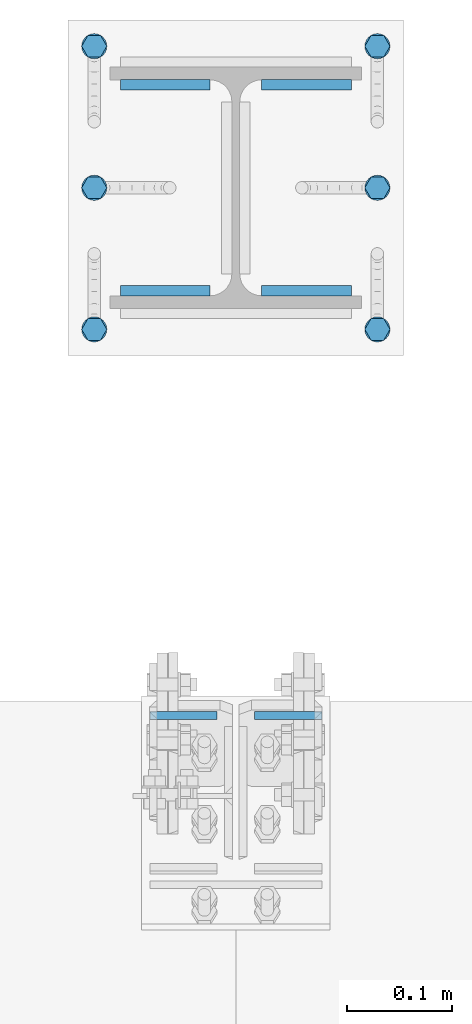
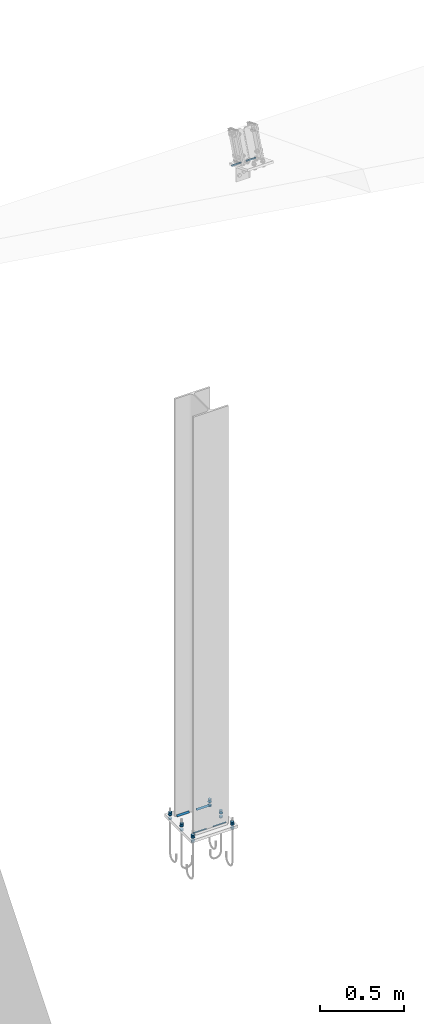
# One storey, part 46 of 72: 30 mechanical fasteners, 12 fasteners.
"""IFC4 building model written with IfcOpenShell, lengths in metres."""

from ifc_helpers import new_model, si_unit, frame, origin_with_axes, place, context, project, spatial, polyline, outline, extrude, type_object, element, save


model = new_model("IFC4")

# Units and contexts
model_context = context("Model", 3, precision=1e-05, world=origin_with_axes())
ifc_project = project(units=[si_unit("LENGTHUNIT", "METRE"), si_unit("AREAUNIT", "SQUARE_METRE"), si_unit("VOLUMEUNIT", "CUBIC_METRE"), si_unit("MASSUNIT", "GRAM", prefix="KILO"), si_unit("TIMEUNIT", "SECOND"), si_unit("PLANEANGLEUNIT", "RADIAN"), si_unit("SOLIDANGLEUNIT", "STERADIAN"), si_unit("THERMODYNAMICTEMPERATUREUNIT", "DEGREE_CELSIUS")], contexts=[model_context])

# Site, building, storey
placement_1 = place(None, origin_with_axes())
site = spatial("IfcSite", under=ifc_project, at=placement_1, Name="Italia", CompositionType="ELEMENT")
building = spatial("IfcBuilding", under=site, at=placement_1, Name="Uffici", CompositionType="ELEMENT")
storey = spatial("IfcBuildingStorey", under=building, at=placement_1, Name="Storey 0", CompositionType="ELEMENT", Elevation=0.0)

# Fasteners
fastener_type_1 = type_object("IfcFastenerType", Name="Collegamenti 0001_0101 0002_0102 0003_0103 0004_0104 0005_0105 0011_0111 0012_0112 0013_0113 0014_0114 0015_0115", PredefinedType="WELD")
placement_2 = place(placement_1, origin_with_axes())
fastener_1_placement = place(placement_2, origin_with_axes())
element("IfcFastener", 1, at=fastener_1_placement, inside=storey, type_object=fastener_type_1, Name="Collegamenti 0001_0101 0002_0102 0003_0103 0004_0104 0005_0105 0011_0111 0012_0112 0013_0113 0014_0114 0015_0115", context=model_context, shape_type="SweptSolid", body=[
    extrude(outline(polyline([(0.0, 0.0), (0.00986814, 0.0101734), (0.00986814, 0.0), (0.0, 0.0)])), frame((3.2297, 5.48318, 0.01995), z_axis=(1.0, 0.0, 0.0), x_axis=(0.0, 1.0, 0.0)), (0.0, 0.0, 1.0), 0.08535),
])
fastener_type_2 = type_object("IfcFastenerType", Name="Collegamenti 0001_0101 0002_0102 0003_0103 0004_0104 0005_0105 0011_0111 0012_0112 0013_0113 0014_0114 0015_0115", PredefinedType="WELD")
fastener_2_placement = place(placement_2, origin_with_axes())
element("IfcFastener", 2, at=fastener_2_placement, inside=storey, type_object=fastener_type_2, Name="Collegamenti 0001_0101 0002_0102 0003_0103 0004_0104 0005_0105 0011_0111 0012_0112 0013_0113 0014_0114 0015_0115", context=model_context, shape_type="SweptSolid", body=[
    extrude(outline(polyline([(0.0, 0.0), (0.00986814, 0.0101734), (0.00986814, 0.0), (0.0, 0.0)])), frame((3.31505, 5.29682, 0.01995), z_axis=(-1.0, 0.0, 0.0), x_axis=(0.0, -1.0, 0.0)), (0.0, 0.0, 1.0), 0.08535),
])
fastener_type_3 = type_object("IfcFastenerType", Name="Collegamenti 0001_0101 0002_0102 0003_0103 0004_0104 0005_0105 0011_0111 0012_0112 0013_0113 0014_0114 0015_0115", PredefinedType="WELD")
fastener_3_placement = place(placement_2, origin_with_axes())
element("IfcFastener", 3, at=fastener_3_placement, inside=storey, type_object=fastener_type_3, Name="Collegamenti 0001_0101 0002_0102 0003_0103 0004_0104 0005_0105 0011_0111 0012_0112 0013_0113 0014_0114 0015_0115", context=model_context, shape_type="SweptSolid", body=[
    extrude(outline(polyline([(0.0, 0.0), (0.00986814, 0.0101734), (0.00986814, 0.0), (0.0, 0.0)])), frame((3.1803, 5.29682, 0.01995), z_axis=(-1.0, 0.0, 0.0), x_axis=(0.0, -1.0, 0.0)), (0.0, 0.0, 1.0), 0.08535),
])
fastener_type_4 = type_object("IfcFastenerType", Name="Collegamenti 0001_0101 0002_0102 0003_0103 0004_0104 0005_0105 0011_0111 0012_0112 0013_0113 0014_0114 0015_0115", PredefinedType="WELD")
fastener_4_placement = place(placement_2, origin_with_axes())
element("IfcFastener", 4, at=fastener_4_placement, inside=storey, type_object=fastener_type_4, Name="Collegamenti 0001_0101 0002_0102 0003_0103 0004_0104 0005_0105 0011_0111 0012_0112 0013_0113 0014_0114 0015_0115", context=model_context, shape_type="SweptSolid", body=[
    extrude(outline(polyline([(0.0, 0.0), (0.00986814, 0.0101734), (0.00986814, 0.0), (0.0, 0.0)])), frame((3.09495, 5.48318, 0.01995), z_axis=(1.0, 0.0, 0.0), x_axis=(0.0, 1.0, 0.0)), (0.0, 0.0, 1.0), 0.08535),
])
fastener_type_5 = type_object("IfcFastenerType", Name="Collegamenti 0001_0101 0002_0102 0003_0103 0004_0104 0005_0105 0011_0111 0012_0112 0013_0113 0014_0114 0015_0115", PredefinedType="WELD")
fastener_5_placement = place(placement_2, origin_with_axes())
element("IfcFastener", 5, at=fastener_5_placement, inside=storey, type_object=fastener_type_5, Name="Collegamenti 0001_0101 0002_0102 0003_0103 0004_0104 0005_0105 0011_0111 0012_0112 0013_0113 0014_0114 0015_0115", context=model_context, shape_type="SweptSolid", body=[
    extrude(outline(polyline([(0.0, 0.0), (0.00986814, 0.0101734), (0.00986814, 0.0), (0.0, 0.0)])), frame((3.2297, 5.48318, 0.01995), z_axis=(1.0, 0.0, 0.0), x_axis=(0.0, 1.0, 0.0)), (0.0, 0.0, 1.0), 0.08535),
])
fastener_type_6 = type_object("IfcFastenerType", Name="Collegamenti 0001_0101 0002_0102 0003_0103 0004_0104 0005_0105 0011_0111 0012_0112 0013_0113 0014_0114 0015_0115", PredefinedType="WELD")
fastener_6_placement = place(placement_2, origin_with_axes())
element("IfcFastener", 6, at=fastener_6_placement, inside=storey, type_object=fastener_type_6, Name="Collegamenti 0001_0101 0002_0102 0003_0103 0004_0104 0005_0105 0011_0111 0012_0112 0013_0113 0014_0114 0015_0115", context=model_context, shape_type="SweptSolid", body=[
    extrude(outline(polyline([(0.0, 0.0), (0.00986814, 0.0101734), (0.00986814, 0.0), (0.0, 0.0)])), frame((3.31505, 5.29682, 0.01995), z_axis=(-1.0, 0.0, 0.0), x_axis=(0.0, -1.0, 0.0)), (0.0, 0.0, 1.0), 0.08535),
])
fastener_type_7 = type_object("IfcFastenerType", Name="Collegamenti 0001_0101 0002_0102 0003_0103 0004_0104 0005_0105 0011_0111 0012_0112 0013_0113 0014_0114 0015_0115", PredefinedType="WELD")
fastener_7_placement = place(placement_2, origin_with_axes())
element("IfcFastener", 7, at=fastener_7_placement, inside=storey, type_object=fastener_type_7, Name="Collegamenti 0001_0101 0002_0102 0003_0103 0004_0104 0005_0105 0011_0111 0012_0112 0013_0113 0014_0114 0015_0115", context=model_context, shape_type="SweptSolid", body=[
    extrude(outline(polyline([(0.0, 0.0), (0.00986814, 0.0101734), (0.00986814, 0.0), (0.0, 0.0)])), frame((3.1803, 5.29682, 0.01995), z_axis=(-1.0, 0.0, 0.0), x_axis=(0.0, -1.0, 0.0)), (0.0, 0.0, 1.0), 0.08535),
])
fastener_type_8 = type_object("IfcFastenerType", Name="Collegamenti 0001_0101 0002_0102 0003_0103 0004_0104 0005_0105 0011_0111 0012_0112 0013_0113 0014_0114 0015_0115", PredefinedType="WELD")
fastener_8_placement = place(placement_2, origin_with_axes())
element("IfcFastener", 8, at=fastener_8_placement, inside=storey, type_object=fastener_type_8, Name="Collegamenti 0001_0101 0002_0102 0003_0103 0004_0104 0005_0105 0011_0111 0012_0112 0013_0113 0014_0114 0015_0115", context=model_context, shape_type="SweptSolid", body=[
    extrude(outline(polyline([(0.0, 0.0), (0.00986814, 0.0101734), (0.00986814, 0.0), (0.0, 0.0)])), frame((3.09495, 5.48318, 0.01995), z_axis=(1.0, 0.0, 0.0), x_axis=(0.0, 1.0, 0.0)), (0.0, 0.0, 1.0), 0.08535),
])

# Mechanical fasteners
mechanical_fastener_type_1 = type_object("IfcMechanicalFastenerType", Name="Collegamenti 0001_0101 0002_0102 0003_0103 0004_0104 0005_0105 0011_0111 0012_0112 0013_0113 0014_0114 0015_0115", PredefinedType="BOLT")
mechanical_fastener_1_placement = place(placement_2, origin_with_axes())
element("IfcMechanicalFastener", 9, at=mechanical_fastener_1_placement, inside=storey, type_object=mechanical_fastener_type_1, Name="Collegamenti 0001_0101 0002_0102 0003_0103 0004_0104 0005_0105 0011_0111 0012_0112 0013_0113 0014_0114 0015_0115", NominalDiameter=0.0119999, context=model_context, shape_type="SweptSolid", body=[
    extrude(outline(polyline([(0.0, 0.0), (0.0, 0.0120001), (0.0103922, 0.0180001), (0.0207849, 0.0120001), (0.0207849, 0.0), (0.0103922, -0.00600004), (0.0, 0.0)])), frame((3.076, 5.24461, 0.022), z_axis=(0.0, 0.0, 1.0), x_axis=(0.0, 1.0, 0.0)), (0.0, 0.0, 1.0), 0.0096),
])
mechanical_fastener_type_2 = type_object("IfcMechanicalFastenerType", Name="Collegamenti 0001_0101 0002_0102 0003_0103 0004_0104 0005_0105 0011_0111 0012_0112 0013_0113 0014_0114 0015_0115", PredefinedType="BOLT")
mechanical_fastener_2_placement = place(placement_2, origin_with_axes())
element("IfcMechanicalFastener", 10, at=mechanical_fastener_2_placement, inside=storey, type_object=mechanical_fastener_type_2, Name="Collegamenti 0001_0101 0002_0102 0003_0103 0004_0104 0005_0105 0011_0111 0012_0112 0013_0113 0014_0114 0015_0115", NominalDiameter=0.0119999, context=model_context, shape_type="SweptSolid", body=[
    extrude(outline(polyline([(0.0, 0.0), (0.0, 0.0120001), (0.0103922, 0.0180001), (0.0207849, 0.0120001), (0.0207849, 0.0), (0.0103922, -0.00600004), (0.0, 0.0)])), frame((3.076, 5.24461, 0.0316), z_axis=(0.0, 0.0, 1.0), x_axis=(0.0, 1.0, 0.0)), (0.0, 0.0, 1.0), 0.0096),
])
mechanical_fastener_type_3 = type_object("IfcMechanicalFastenerType", Name="Collegamenti 0001_0101 0002_0102 0003_0103 0004_0104 0005_0105 0011_0111 0012_0112 0013_0113 0014_0114 0015_0115", PredefinedType="BOLT")
mechanical_fastener_3_placement = place(placement_2, origin_with_axes())
element("IfcMechanicalFastener", 11, at=mechanical_fastener_3_placement, inside=storey, type_object=mechanical_fastener_type_3, Name="Collegamenti 0001_0101 0002_0102 0003_0103 0004_0104 0005_0105 0011_0111 0012_0112 0013_0113 0014_0114 0015_0115", NominalDiameter=0.0119999, context=model_context, shape_type="SweptSolid", body=[
    extrude(outline(polyline([(0.0, 0.0), (0.0, 0.0120001), (0.0103922, 0.0180001), (0.0207849, 0.0120001), (0.0207849, 0.0), (0.0103922, -0.00600004), (0.0, 0.0)])), frame((3.076, 5.24461, -0.0116), z_axis=(0.0, 0.0, 1.0), x_axis=(0.0, 1.0, 0.0)), (0.0, 0.0, 1.0), 0.0096),
])
mechanical_fastener_type_4 = type_object("IfcMechanicalFastenerType", Name="Collegamenti 0001_0101 0002_0102 0003_0103 0004_0104 0005_0105 0011_0111 0012_0112 0013_0113 0014_0114 0015_0115", PredefinedType="BOLT")
mechanical_fastener_4_placement = place(placement_2, origin_with_axes())
element("IfcMechanicalFastener", 12, at=mechanical_fastener_4_placement, inside=storey, type_object=mechanical_fastener_type_4, Name="Collegamenti 0001_0101 0002_0102 0003_0103 0004_0104 0005_0105 0011_0111 0012_0112 0013_0113 0014_0114 0015_0115", NominalDiameter=0.024, context=model_context, shape_type="SweptSolid", body=[
    extrude(outline(polyline([(0.0, 0.0), (-0.000409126, -0.00310588), (-0.00160789, -0.00600004), (-0.00351477, -0.00848532), (-0.00600004, -0.0103922), (-0.00889444, -0.0115912), (-0.0120001, -0.0120001), (-0.0151057, -0.0115912), (-0.0180001, -0.0103922), (-0.0204854, -0.00848532), (-0.0223923, -0.00600004), (-0.023591, -0.00310588), (-0.0240002, 0.0), (-0.023591, 0.00310588), (-0.0223923, 0.00600004), (-0.0204854, 0.00848532), (-0.0180001, 0.0103922), (-0.0151057, 0.0115912), (-0.0120001, 0.0120001), (-0.00889444, 0.0115912), (-0.00600004, 0.0103922), (-0.00351477, 0.00848532), (-0.00160789, 0.00600004), (-0.000409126, 0.00310588), (0.0, 0.0)])), frame((3.07, 5.267, 0.02), z_axis=(0.0, 0.0, 1.0), x_axis=(0.0, 1.0, 0.0)), (0.0, 0.0, 1.0), 0.002),
])
mechanical_fastener_type_5 = type_object("IfcMechanicalFastenerType", Name="Collegamenti 0001_0101 0002_0102 0003_0103 0004_0104 0005_0105 0011_0111 0012_0112 0013_0113 0014_0114 0015_0115", PredefinedType="BOLT")
mechanical_fastener_5_placement = place(placement_2, origin_with_axes())
element("IfcMechanicalFastener", 13, at=mechanical_fastener_5_placement, inside=storey, type_object=mechanical_fastener_type_5, Name="Collegamenti 0001_0101 0002_0102 0003_0103 0004_0104 0005_0105 0011_0111 0012_0112 0013_0113 0014_0114 0015_0115", NominalDiameter=0.024, context=model_context, shape_type="SweptSolid", body=[
    extrude(outline(polyline([(0.0, 0.0), (-0.000409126, -0.00310588), (-0.00160789, -0.00600004), (-0.00351477, -0.00848532), (-0.00600004, -0.0103922), (-0.00889444, -0.0115912), (-0.0120001, -0.0120001), (-0.0151057, -0.0115912), (-0.0180001, -0.0103922), (-0.0204854, -0.00848532), (-0.0223923, -0.00600004), (-0.023591, -0.00310588), (-0.0240002, 0.0), (-0.023591, 0.00310588), (-0.0223923, 0.00600004), (-0.0204854, 0.00848532), (-0.0180001, 0.0103922), (-0.0151057, 0.0115912), (-0.0120001, 0.0120001), (-0.00889444, 0.0115912), (-0.00600004, 0.0103922), (-0.00351477, 0.00848532), (-0.00160789, 0.00600004), (-0.000409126, 0.00310588), (0.0, 0.0)])), frame((3.07, 5.267, -0.002), z_axis=(0.0, 0.0, 1.0), x_axis=(0.0, 1.0, 0.0)), (0.0, 0.0, 1.0), 0.002),
])
mechanical_fastener_type_6 = type_object("IfcMechanicalFastenerType", Name="Collegamenti 0001_0101 0002_0102 0003_0103 0004_0104 0005_0105 0011_0111 0012_0112 0013_0113 0014_0114 0015_0115", PredefinedType="BOLT")
mechanical_fastener_6_placement = place(placement_2, origin_with_axes())
element("IfcMechanicalFastener", 14, at=mechanical_fastener_6_placement, inside=storey, type_object=mechanical_fastener_type_6, Name="Collegamenti 0001_0101 0002_0102 0003_0103 0004_0104 0005_0105 0011_0111 0012_0112 0013_0113 0014_0114 0015_0115", NominalDiameter=0.0119999, context=model_context, shape_type="SweptSolid", body=[
    extrude(outline(polyline([(0.0, 0.0), (0.0, 0.0120001), (0.0103922, 0.0180001), (0.0207849, 0.0120001), (0.0207849, 0.0), (0.0103922, -0.00600004), (0.0, 0.0)])), frame((3.346, 5.24461, 0.022), z_axis=(0.0, 0.0, 1.0), x_axis=(0.0, 1.0, 0.0)), (0.0, 0.0, 1.0), 0.0096),
])
mechanical_fastener_type_7 = type_object("IfcMechanicalFastenerType", Name="Collegamenti 0001_0101 0002_0102 0003_0103 0004_0104 0005_0105 0011_0111 0012_0112 0013_0113 0014_0114 0015_0115", PredefinedType="BOLT")
mechanical_fastener_7_placement = place(placement_2, origin_with_axes())
element("IfcMechanicalFastener", 15, at=mechanical_fastener_7_placement, inside=storey, type_object=mechanical_fastener_type_7, Name="Collegamenti 0001_0101 0002_0102 0003_0103 0004_0104 0005_0105 0011_0111 0012_0112 0013_0113 0014_0114 0015_0115", NominalDiameter=0.0119999, context=model_context, shape_type="SweptSolid", body=[
    extrude(outline(polyline([(0.0, 0.0), (0.0, 0.0120001), (0.0103922, 0.0180001), (0.0207849, 0.0120001), (0.0207849, 0.0), (0.0103922, -0.00600004), (0.0, 0.0)])), frame((3.346, 5.24461, 0.0316), z_axis=(0.0, 0.0, 1.0), x_axis=(0.0, 1.0, 0.0)), (0.0, 0.0, 1.0), 0.0096),
])
mechanical_fastener_type_8 = type_object("IfcMechanicalFastenerType", Name="Collegamenti 0001_0101 0002_0102 0003_0103 0004_0104 0005_0105 0011_0111 0012_0112 0013_0113 0014_0114 0015_0115", PredefinedType="BOLT")
mechanical_fastener_8_placement = place(placement_2, origin_with_axes())
element("IfcMechanicalFastener", 16, at=mechanical_fastener_8_placement, inside=storey, type_object=mechanical_fastener_type_8, Name="Collegamenti 0001_0101 0002_0102 0003_0103 0004_0104 0005_0105 0011_0111 0012_0112 0013_0113 0014_0114 0015_0115", NominalDiameter=0.0119999, context=model_context, shape_type="SweptSolid", body=[
    extrude(outline(polyline([(0.0, 0.0), (0.0, 0.0120001), (0.0103922, 0.0180001), (0.0207849, 0.0120001), (0.0207849, 0.0), (0.0103922, -0.00600004), (0.0, 0.0)])), frame((3.346, 5.24461, -0.0116), z_axis=(0.0, 0.0, 1.0), x_axis=(0.0, 1.0, 0.0)), (0.0, 0.0, 1.0), 0.0096),
])
mechanical_fastener_type_9 = type_object("IfcMechanicalFastenerType", Name="Collegamenti 0001_0101 0002_0102 0003_0103 0004_0104 0005_0105 0011_0111 0012_0112 0013_0113 0014_0114 0015_0115", PredefinedType="BOLT")
mechanical_fastener_9_placement = place(placement_2, origin_with_axes())
element("IfcMechanicalFastener", 17, at=mechanical_fastener_9_placement, inside=storey, type_object=mechanical_fastener_type_9, Name="Collegamenti 0001_0101 0002_0102 0003_0103 0004_0104 0005_0105 0011_0111 0012_0112 0013_0113 0014_0114 0015_0115", NominalDiameter=0.024, context=model_context, shape_type="SweptSolid", body=[
    extrude(outline(polyline([(0.0, 0.0), (-0.000409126, -0.00310588), (-0.00160789, -0.00600004), (-0.00351477, -0.00848532), (-0.00600004, -0.0103922), (-0.00889444, -0.0115912), (-0.0120001, -0.0120001), (-0.0151057, -0.0115912), (-0.0180001, -0.0103922), (-0.0204854, -0.00848532), (-0.0223923, -0.00600004), (-0.023591, -0.00310588), (-0.0240002, 0.0), (-0.023591, 0.00310588), (-0.0223923, 0.00600004), (-0.0204854, 0.00848532), (-0.0180001, 0.0103922), (-0.0151057, 0.0115912), (-0.0120001, 0.0120001), (-0.00889444, 0.0115912), (-0.00600004, 0.0103922), (-0.00351477, 0.00848532), (-0.00160789, 0.00600004), (-0.000409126, 0.00310588), (0.0, 0.0)])), frame((3.34, 5.267, 0.02), z_axis=(0.0, 0.0, 1.0), x_axis=(0.0, 1.0, 0.0)), (0.0, 0.0, 1.0), 0.002),
])
mechanical_fastener_type_10 = type_object("IfcMechanicalFastenerType", Name="Collegamenti 0001_0101 0002_0102 0003_0103 0004_0104 0005_0105 0011_0111 0012_0112 0013_0113 0014_0114 0015_0115", PredefinedType="BOLT")
mechanical_fastener_10_placement = place(placement_2, origin_with_axes())
element("IfcMechanicalFastener", 18, at=mechanical_fastener_10_placement, inside=storey, type_object=mechanical_fastener_type_10, Name="Collegamenti 0001_0101 0002_0102 0003_0103 0004_0104 0005_0105 0011_0111 0012_0112 0013_0113 0014_0114 0015_0115", NominalDiameter=0.024, context=model_context, shape_type="SweptSolid", body=[
    extrude(outline(polyline([(0.0, 0.0), (-0.000409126, -0.00310588), (-0.00160789, -0.00600004), (-0.00351477, -0.00848532), (-0.00600004, -0.0103922), (-0.00889444, -0.0115912), (-0.0120001, -0.0120001), (-0.0151057, -0.0115912), (-0.0180001, -0.0103922), (-0.0204854, -0.00848532), (-0.0223923, -0.00600004), (-0.023591, -0.00310588), (-0.0240002, 0.0), (-0.023591, 0.00310588), (-0.0223923, 0.00600004), (-0.0204854, 0.00848532), (-0.0180001, 0.0103922), (-0.0151057, 0.0115912), (-0.0120001, 0.0120001), (-0.00889444, 0.0115912), (-0.00600004, 0.0103922), (-0.00351477, 0.00848532), (-0.00160789, 0.00600004), (-0.000409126, 0.00310588), (0.0, 0.0)])), frame((3.34, 5.267, -0.002), z_axis=(0.0, 0.0, 1.0), x_axis=(0.0, 1.0, 0.0)), (0.0, 0.0, 1.0), 0.002),
])
mechanical_fastener_type_11 = type_object("IfcMechanicalFastenerType", Name="Collegamenti 0001_0101 0002_0102 0003_0103 0004_0104 0005_0105 0011_0111 0012_0112 0013_0113 0014_0114 0015_0115", PredefinedType="BOLT")
mechanical_fastener_11_placement = place(placement_2, origin_with_axes())
element("IfcMechanicalFastener", 19, at=mechanical_fastener_11_placement, inside=storey, type_object=mechanical_fastener_type_11, Name="Collegamenti 0001_0101 0002_0102 0003_0103 0004_0104 0005_0105 0011_0111 0012_0112 0013_0113 0014_0114 0015_0115", NominalDiameter=0.0119999, context=model_context, shape_type="SweptSolid", body=[
    extrude(outline(polyline([(0.0, 0.0), (0.0, 0.0120001), (0.0103922, 0.0180001), (0.0207844, 0.0120001), (0.0207844, 0.0), (0.0103922, -0.00600004), (0.0, 0.0)])), frame((3.076, 5.37961, 0.022), z_axis=(0.0, 0.0, 1.0), x_axis=(0.0, 1.0, 0.0)), (0.0, 0.0, 1.0), 0.0096),
])
mechanical_fastener_type_12 = type_object("IfcMechanicalFastenerType", Name="Collegamenti 0001_0101 0002_0102 0003_0103 0004_0104 0005_0105 0011_0111 0012_0112 0013_0113 0014_0114 0015_0115", PredefinedType="BOLT")
mechanical_fastener_12_placement = place(placement_2, origin_with_axes())
element("IfcMechanicalFastener", 20, at=mechanical_fastener_12_placement, inside=storey, type_object=mechanical_fastener_type_12, Name="Collegamenti 0001_0101 0002_0102 0003_0103 0004_0104 0005_0105 0011_0111 0012_0112 0013_0113 0014_0114 0015_0115", NominalDiameter=0.0119999, context=model_context, shape_type="SweptSolid", body=[
    extrude(outline(polyline([(0.0, 0.0), (0.0, 0.0120001), (0.0103922, 0.0180001), (0.0207844, 0.0120001), (0.0207844, 0.0), (0.0103922, -0.00600004), (0.0, 0.0)])), frame((3.076, 5.37961, 0.0316), z_axis=(0.0, 0.0, 1.0), x_axis=(0.0, 1.0, 0.0)), (0.0, 0.0, 1.0), 0.0096),
])
mechanical_fastener_type_13 = type_object("IfcMechanicalFastenerType", Name="Collegamenti 0001_0101 0002_0102 0003_0103 0004_0104 0005_0105 0011_0111 0012_0112 0013_0113 0014_0114 0015_0115", PredefinedType="BOLT")
mechanical_fastener_13_placement = place(placement_2, origin_with_axes())
element("IfcMechanicalFastener", 21, at=mechanical_fastener_13_placement, inside=storey, type_object=mechanical_fastener_type_13, Name="Collegamenti 0001_0101 0002_0102 0003_0103 0004_0104 0005_0105 0011_0111 0012_0112 0013_0113 0014_0114 0015_0115", NominalDiameter=0.0119999, context=model_context, shape_type="SweptSolid", body=[
    extrude(outline(polyline([(0.0, 0.0), (0.0, 0.0120001), (0.0103922, 0.0180001), (0.0207844, 0.0120001), (0.0207844, 0.0), (0.0103922, -0.00600004), (0.0, 0.0)])), frame((3.076, 5.37961, -0.0116), z_axis=(0.0, 0.0, 1.0), x_axis=(0.0, 1.0, 0.0)), (0.0, 0.0, 1.0), 0.0096),
])
mechanical_fastener_type_14 = type_object("IfcMechanicalFastenerType", Name="Collegamenti 0001_0101 0002_0102 0003_0103 0004_0104 0005_0105 0011_0111 0012_0112 0013_0113 0014_0114 0015_0115", PredefinedType="BOLT")
mechanical_fastener_14_placement = place(placement_2, origin_with_axes())
element("IfcMechanicalFastener", 22, at=mechanical_fastener_14_placement, inside=storey, type_object=mechanical_fastener_type_14, Name="Collegamenti 0001_0101 0002_0102 0003_0103 0004_0104 0005_0105 0011_0111 0012_0112 0013_0113 0014_0114 0015_0115", NominalDiameter=0.024, context=model_context, shape_type="SweptSolid", body=[
    extrude(outline(polyline([(0.0, 0.0), (-0.000409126, -0.00310588), (-0.00160789, -0.00600004), (-0.00351477, -0.00848532), (-0.00600004, -0.0103922), (-0.00889444, -0.0115912), (-0.0120001, -0.0120001), (-0.0151057, -0.0115912), (-0.0180001, -0.0103922), (-0.0204854, -0.00848532), (-0.0223923, -0.00600004), (-0.023591, -0.00310588), (-0.0240002, 0.0), (-0.023591, 0.00310588), (-0.0223923, 0.00600004), (-0.0204854, 0.00848532), (-0.0180001, 0.0103922), (-0.0151057, 0.0115912), (-0.0120001, 0.0120001), (-0.00889444, 0.0115912), (-0.00600004, 0.0103922), (-0.00351477, 0.00848532), (-0.00160789, 0.00600004), (-0.000409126, 0.00310588), (0.0, 0.0)])), frame((3.07, 5.402, 0.02), z_axis=(0.0, 0.0, 1.0), x_axis=(0.0, 1.0, 0.0)), (0.0, 0.0, 1.0), 0.002),
])
mechanical_fastener_type_15 = type_object("IfcMechanicalFastenerType", Name="Collegamenti 0001_0101 0002_0102 0003_0103 0004_0104 0005_0105 0011_0111 0012_0112 0013_0113 0014_0114 0015_0115", PredefinedType="BOLT")
mechanical_fastener_15_placement = place(placement_2, origin_with_axes())
element("IfcMechanicalFastener", 23, at=mechanical_fastener_15_placement, inside=storey, type_object=mechanical_fastener_type_15, Name="Collegamenti 0001_0101 0002_0102 0003_0103 0004_0104 0005_0105 0011_0111 0012_0112 0013_0113 0014_0114 0015_0115", NominalDiameter=0.024, context=model_context, shape_type="SweptSolid", body=[
    extrude(outline(polyline([(0.0, 0.0), (-0.000409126, -0.00310588), (-0.00160789, -0.00600004), (-0.00351477, -0.00848532), (-0.00600004, -0.0103922), (-0.00889444, -0.0115912), (-0.0120001, -0.0120001), (-0.0151057, -0.0115912), (-0.0180001, -0.0103922), (-0.0204854, -0.00848532), (-0.0223923, -0.00600004), (-0.023591, -0.00310588), (-0.0240002, 0.0), (-0.023591, 0.00310588), (-0.0223923, 0.00600004), (-0.0204854, 0.00848532), (-0.0180001, 0.0103922), (-0.0151057, 0.0115912), (-0.0120001, 0.0120001), (-0.00889444, 0.0115912), (-0.00600004, 0.0103922), (-0.00351477, 0.00848532), (-0.00160789, 0.00600004), (-0.000409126, 0.00310588), (0.0, 0.0)])), frame((3.07, 5.402, -0.002), z_axis=(0.0, 0.0, 1.0), x_axis=(0.0, 1.0, 0.0)), (0.0, 0.0, 1.0), 0.002),
])
mechanical_fastener_type_16 = type_object("IfcMechanicalFastenerType", Name="Collegamenti 0001_0101 0002_0102 0003_0103 0004_0104 0005_0105 0011_0111 0012_0112 0013_0113 0014_0114 0015_0115", PredefinedType="BOLT")
mechanical_fastener_16_placement = place(placement_2, origin_with_axes())
element("IfcMechanicalFastener", 24, at=mechanical_fastener_16_placement, inside=storey, type_object=mechanical_fastener_type_16, Name="Collegamenti 0001_0101 0002_0102 0003_0103 0004_0104 0005_0105 0011_0111 0012_0112 0013_0113 0014_0114 0015_0115", NominalDiameter=0.0119999, context=model_context, shape_type="SweptSolid", body=[
    extrude(outline(polyline([(0.0, 0.0), (0.0, 0.0120001), (0.0103922, 0.0180001), (0.0207844, 0.0120001), (0.0207844, 0.0), (0.0103922, -0.00600004), (0.0, 0.0)])), frame((3.346, 5.37961, 0.022), z_axis=(0.0, 0.0, 1.0), x_axis=(0.0, 1.0, 0.0)), (0.0, 0.0, 1.0), 0.0096),
])
mechanical_fastener_type_17 = type_object("IfcMechanicalFastenerType", Name="Collegamenti 0001_0101 0002_0102 0003_0103 0004_0104 0005_0105 0011_0111 0012_0112 0013_0113 0014_0114 0015_0115", PredefinedType="BOLT")
mechanical_fastener_17_placement = place(placement_2, origin_with_axes())
element("IfcMechanicalFastener", 25, at=mechanical_fastener_17_placement, inside=storey, type_object=mechanical_fastener_type_17, Name="Collegamenti 0001_0101 0002_0102 0003_0103 0004_0104 0005_0105 0011_0111 0012_0112 0013_0113 0014_0114 0015_0115", NominalDiameter=0.0119999, context=model_context, shape_type="SweptSolid", body=[
    extrude(outline(polyline([(0.0, 0.0), (0.0, 0.0120001), (0.0103922, 0.0180001), (0.0207844, 0.0120001), (0.0207844, 0.0), (0.0103922, -0.00600004), (0.0, 0.0)])), frame((3.346, 5.37961, 0.0316), z_axis=(0.0, 0.0, 1.0), x_axis=(0.0, 1.0, 0.0)), (0.0, 0.0, 1.0), 0.0096),
])
mechanical_fastener_type_18 = type_object("IfcMechanicalFastenerType", Name="Collegamenti 0001_0101 0002_0102 0003_0103 0004_0104 0005_0105 0011_0111 0012_0112 0013_0113 0014_0114 0015_0115", PredefinedType="BOLT")
mechanical_fastener_18_placement = place(placement_2, origin_with_axes())
element("IfcMechanicalFastener", 26, at=mechanical_fastener_18_placement, inside=storey, type_object=mechanical_fastener_type_18, Name="Collegamenti 0001_0101 0002_0102 0003_0103 0004_0104 0005_0105 0011_0111 0012_0112 0013_0113 0014_0114 0015_0115", NominalDiameter=0.0119999, context=model_context, shape_type="SweptSolid", body=[
    extrude(outline(polyline([(0.0, 0.0), (0.0, 0.0120001), (0.0103922, 0.0180001), (0.0207844, 0.0120001), (0.0207844, 0.0), (0.0103922, -0.00600004), (0.0, 0.0)])), frame((3.346, 5.37961, -0.0116), z_axis=(0.0, 0.0, 1.0), x_axis=(0.0, 1.0, 0.0)), (0.0, 0.0, 1.0), 0.0096),
])
mechanical_fastener_type_19 = type_object("IfcMechanicalFastenerType", Name="Collegamenti 0001_0101 0002_0102 0003_0103 0004_0104 0005_0105 0011_0111 0012_0112 0013_0113 0014_0114 0015_0115", PredefinedType="BOLT")
mechanical_fastener_19_placement = place(placement_2, origin_with_axes())
element("IfcMechanicalFastener", 27, at=mechanical_fastener_19_placement, inside=storey, type_object=mechanical_fastener_type_19, Name="Collegamenti 0001_0101 0002_0102 0003_0103 0004_0104 0005_0105 0011_0111 0012_0112 0013_0113 0014_0114 0015_0115", NominalDiameter=0.024, context=model_context, shape_type="SweptSolid", body=[
    extrude(outline(polyline([(0.0, 0.0), (-0.000409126, -0.00310588), (-0.00160789, -0.00600004), (-0.00351477, -0.00848532), (-0.00600004, -0.0103922), (-0.00889444, -0.0115912), (-0.0120001, -0.0120001), (-0.0151057, -0.0115912), (-0.0180001, -0.0103922), (-0.0204854, -0.00848532), (-0.0223923, -0.00600004), (-0.023591, -0.00310588), (-0.0240002, 0.0), (-0.023591, 0.00310588), (-0.0223923, 0.00600004), (-0.0204854, 0.00848532), (-0.0180001, 0.0103922), (-0.0151057, 0.0115912), (-0.0120001, 0.0120001), (-0.00889444, 0.0115912), (-0.00600004, 0.0103922), (-0.00351477, 0.00848532), (-0.00160789, 0.00600004), (-0.000409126, 0.00310588), (0.0, 0.0)])), frame((3.34, 5.402, 0.02), z_axis=(0.0, 0.0, 1.0), x_axis=(0.0, 1.0, 0.0)), (0.0, 0.0, 1.0), 0.002),
])
mechanical_fastener_type_20 = type_object("IfcMechanicalFastenerType", Name="Collegamenti 0001_0101 0002_0102 0003_0103 0004_0104 0005_0105 0011_0111 0012_0112 0013_0113 0014_0114 0015_0115", PredefinedType="BOLT")
mechanical_fastener_20_placement = place(placement_2, origin_with_axes())
element("IfcMechanicalFastener", 28, at=mechanical_fastener_20_placement, inside=storey, type_object=mechanical_fastener_type_20, Name="Collegamenti 0001_0101 0002_0102 0003_0103 0004_0104 0005_0105 0011_0111 0012_0112 0013_0113 0014_0114 0015_0115", NominalDiameter=0.024, context=model_context, shape_type="SweptSolid", body=[
    extrude(outline(polyline([(0.0, 0.0), (-0.000409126, -0.00310588), (-0.00160789, -0.00600004), (-0.00351477, -0.00848532), (-0.00600004, -0.0103922), (-0.00889444, -0.0115912), (-0.0120001, -0.0120001), (-0.0151057, -0.0115912), (-0.0180001, -0.0103922), (-0.0204854, -0.00848532), (-0.0223923, -0.00600004), (-0.023591, -0.00310588), (-0.0240002, 0.0), (-0.023591, 0.00310588), (-0.0223923, 0.00600004), (-0.0204854, 0.00848532), (-0.0180001, 0.0103922), (-0.0151057, 0.0115912), (-0.0120001, 0.0120001), (-0.00889444, 0.0115912), (-0.00600004, 0.0103922), (-0.00351477, 0.00848532), (-0.00160789, 0.00600004), (-0.000409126, 0.00310588), (0.0, 0.0)])), frame((3.34, 5.402, -0.002), z_axis=(0.0, 0.0, 1.0), x_axis=(0.0, 1.0, 0.0)), (0.0, 0.0, 1.0), 0.002),
])
mechanical_fastener_type_21 = type_object("IfcMechanicalFastenerType", Name="Collegamenti 0001_0101 0002_0102 0003_0103 0004_0104 0005_0105 0011_0111 0012_0112 0013_0113 0014_0114 0015_0115", PredefinedType="BOLT")
mechanical_fastener_21_placement = place(placement_2, origin_with_axes())
element("IfcMechanicalFastener", 29, at=mechanical_fastener_21_placement, inside=storey, type_object=mechanical_fastener_type_21, Name="Collegamenti 0001_0101 0002_0102 0003_0103 0004_0104 0005_0105 0011_0111 0012_0112 0013_0113 0014_0114 0015_0115", NominalDiameter=0.0119999, context=model_context, shape_type="SweptSolid", body=[
    extrude(outline(polyline([(0.0, 0.0), (0.0, 0.0120001), (0.0103927, 0.0180001), (0.0207849, 0.0120001), (0.0207849, 0.0), (0.0103927, -0.00600004), (0.0, 0.0)])), frame((3.076, 5.51461, 0.022), z_axis=(0.0, 0.0, 1.0), x_axis=(0.0, 1.0, 0.0)), (0.0, 0.0, 1.0), 0.0096),
])
mechanical_fastener_type_22 = type_object("IfcMechanicalFastenerType", Name="Collegamenti 0001_0101 0002_0102 0003_0103 0004_0104 0005_0105 0011_0111 0012_0112 0013_0113 0014_0114 0015_0115", PredefinedType="BOLT")
mechanical_fastener_22_placement = place(placement_2, origin_with_axes())
element("IfcMechanicalFastener", 30, at=mechanical_fastener_22_placement, inside=storey, type_object=mechanical_fastener_type_22, Name="Collegamenti 0001_0101 0002_0102 0003_0103 0004_0104 0005_0105 0011_0111 0012_0112 0013_0113 0014_0114 0015_0115", NominalDiameter=0.0119999, context=model_context, shape_type="SweptSolid", body=[
    extrude(outline(polyline([(0.0, 0.0), (0.0, 0.0120001), (0.0103927, 0.0180001), (0.0207849, 0.0120001), (0.0207849, 0.0), (0.0103927, -0.00600004), (0.0, 0.0)])), frame((3.076, 5.51461, 0.0316), z_axis=(0.0, 0.0, 1.0), x_axis=(0.0, 1.0, 0.0)), (0.0, 0.0, 1.0), 0.0096),
])
mechanical_fastener_type_23 = type_object("IfcMechanicalFastenerType", Name="Collegamenti 0001_0101 0002_0102 0003_0103 0004_0104 0005_0105 0011_0111 0012_0112 0013_0113 0014_0114 0015_0115", PredefinedType="BOLT")
mechanical_fastener_23_placement = place(placement_2, origin_with_axes())
element("IfcMechanicalFastener", 31, at=mechanical_fastener_23_placement, inside=storey, type_object=mechanical_fastener_type_23, Name="Collegamenti 0001_0101 0002_0102 0003_0103 0004_0104 0005_0105 0011_0111 0012_0112 0013_0113 0014_0114 0015_0115", NominalDiameter=0.0119999, context=model_context, shape_type="SweptSolid", body=[
    extrude(outline(polyline([(0.0, 0.0), (0.0, 0.0120001), (0.0103927, 0.0180001), (0.0207849, 0.0120001), (0.0207849, 0.0), (0.0103927, -0.00600004), (0.0, 0.0)])), frame((3.076, 5.51461, -0.0116), z_axis=(0.0, 0.0, 1.0), x_axis=(0.0, 1.0, 0.0)), (0.0, 0.0, 1.0), 0.0096),
])
mechanical_fastener_type_24 = type_object("IfcMechanicalFastenerType", Name="Collegamenti 0001_0101 0002_0102 0003_0103 0004_0104 0005_0105 0011_0111 0012_0112 0013_0113 0014_0114 0015_0115", PredefinedType="BOLT")
mechanical_fastener_24_placement = place(placement_2, origin_with_axes())
element("IfcMechanicalFastener", 32, at=mechanical_fastener_24_placement, inside=storey, type_object=mechanical_fastener_type_24, Name="Collegamenti 0001_0101 0002_0102 0003_0103 0004_0104 0005_0105 0011_0111 0012_0112 0013_0113 0014_0114 0015_0115", NominalDiameter=0.024, context=model_context, shape_type="SweptSolid", body=[
    extrude(outline(polyline([(0.0, 0.0), (-0.000409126, -0.00310588), (-0.00160789, -0.00600004), (-0.00351477, -0.00848532), (-0.00600004, -0.0103922), (-0.00889444, -0.0115912), (-0.0120001, -0.0120001), (-0.0151057, -0.0115912), (-0.0180001, -0.0103922), (-0.0204854, -0.00848532), (-0.0223923, -0.00600004), (-0.023591, -0.00310588), (-0.0240002, 0.0), (-0.023591, 0.00310588), (-0.0223923, 0.00600004), (-0.0204854, 0.00848532), (-0.0180001, 0.0103922), (-0.0151057, 0.0115912), (-0.0120001, 0.0120001), (-0.00889444, 0.0115912), (-0.00600004, 0.0103922), (-0.00351477, 0.00848532), (-0.00160789, 0.00600004), (-0.000409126, 0.00310588), (0.0, 0.0)])), frame((3.07, 5.537, 0.02), z_axis=(0.0, 0.0, 1.0), x_axis=(0.0, 1.0, 0.0)), (0.0, 0.0, 1.0), 0.002),
])
mechanical_fastener_type_25 = type_object("IfcMechanicalFastenerType", Name="Collegamenti 0001_0101 0002_0102 0003_0103 0004_0104 0005_0105 0011_0111 0012_0112 0013_0113 0014_0114 0015_0115", PredefinedType="BOLT")
mechanical_fastener_25_placement = place(placement_2, origin_with_axes())
element("IfcMechanicalFastener", 33, at=mechanical_fastener_25_placement, inside=storey, type_object=mechanical_fastener_type_25, Name="Collegamenti 0001_0101 0002_0102 0003_0103 0004_0104 0005_0105 0011_0111 0012_0112 0013_0113 0014_0114 0015_0115", NominalDiameter=0.024, context=model_context, shape_type="SweptSolid", body=[
    extrude(outline(polyline([(0.0, 0.0), (-0.000409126, -0.00310588), (-0.00160789, -0.00600004), (-0.00351477, -0.00848532), (-0.00600004, -0.0103922), (-0.00889444, -0.0115912), (-0.0120001, -0.0120001), (-0.0151057, -0.0115912), (-0.0180001, -0.0103922), (-0.0204854, -0.00848532), (-0.0223923, -0.00600004), (-0.023591, -0.00310588), (-0.0240002, 0.0), (-0.023591, 0.00310588), (-0.0223923, 0.00600004), (-0.0204854, 0.00848532), (-0.0180001, 0.0103922), (-0.0151057, 0.0115912), (-0.0120001, 0.0120001), (-0.00889444, 0.0115912), (-0.00600004, 0.0103922), (-0.00351477, 0.00848532), (-0.00160789, 0.00600004), (-0.000409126, 0.00310588), (0.0, 0.0)])), frame((3.07, 5.537, -0.002), z_axis=(0.0, 0.0, 1.0), x_axis=(0.0, 1.0, 0.0)), (0.0, 0.0, 1.0), 0.002),
])
mechanical_fastener_type_26 = type_object("IfcMechanicalFastenerType", Name="Collegamenti 0001_0101 0002_0102 0003_0103 0004_0104 0005_0105 0011_0111 0012_0112 0013_0113 0014_0114 0015_0115", PredefinedType="BOLT")
mechanical_fastener_26_placement = place(placement_2, origin_with_axes())
element("IfcMechanicalFastener", 34, at=mechanical_fastener_26_placement, inside=storey, type_object=mechanical_fastener_type_26, Name="Collegamenti 0001_0101 0002_0102 0003_0103 0004_0104 0005_0105 0011_0111 0012_0112 0013_0113 0014_0114 0015_0115", NominalDiameter=0.0119999, context=model_context, shape_type="SweptSolid", body=[
    extrude(outline(polyline([(0.0, 0.0), (0.0, 0.0120001), (0.0103927, 0.0180001), (0.0207849, 0.0120001), (0.0207849, 0.0), (0.0103927, -0.00600004), (0.0, 0.0)])), frame((3.346, 5.51461, 0.022), z_axis=(0.0, 0.0, 1.0), x_axis=(0.0, 1.0, 0.0)), (0.0, 0.0, 1.0), 0.0096),
])
mechanical_fastener_type_27 = type_object("IfcMechanicalFastenerType", Name="Collegamenti 0001_0101 0002_0102 0003_0103 0004_0104 0005_0105 0011_0111 0012_0112 0013_0113 0014_0114 0015_0115", PredefinedType="BOLT")
mechanical_fastener_27_placement = place(placement_2, origin_with_axes())
element("IfcMechanicalFastener", 35, at=mechanical_fastener_27_placement, inside=storey, type_object=mechanical_fastener_type_27, Name="Collegamenti 0001_0101 0002_0102 0003_0103 0004_0104 0005_0105 0011_0111 0012_0112 0013_0113 0014_0114 0015_0115", NominalDiameter=0.0119999, context=model_context, shape_type="SweptSolid", body=[
    extrude(outline(polyline([(0.0, 0.0), (0.0, 0.0120001), (0.0103927, 0.0180001), (0.0207849, 0.0120001), (0.0207849, 0.0), (0.0103927, -0.00600004), (0.0, 0.0)])), frame((3.346, 5.51461, 0.0316), z_axis=(0.0, 0.0, 1.0), x_axis=(0.0, 1.0, 0.0)), (0.0, 0.0, 1.0), 0.0096),
])
mechanical_fastener_type_28 = type_object("IfcMechanicalFastenerType", Name="Collegamenti 0001_0101 0002_0102 0003_0103 0004_0104 0005_0105 0011_0111 0012_0112 0013_0113 0014_0114 0015_0115", PredefinedType="BOLT")
mechanical_fastener_28_placement = place(placement_2, origin_with_axes())
element("IfcMechanicalFastener", 36, at=mechanical_fastener_28_placement, inside=storey, type_object=mechanical_fastener_type_28, Name="Collegamenti 0001_0101 0002_0102 0003_0103 0004_0104 0005_0105 0011_0111 0012_0112 0013_0113 0014_0114 0015_0115", NominalDiameter=0.0119999, context=model_context, shape_type="SweptSolid", body=[
    extrude(outline(polyline([(0.0, 0.0), (0.0, 0.0120001), (0.0103927, 0.0180001), (0.0207849, 0.0120001), (0.0207849, 0.0), (0.0103927, -0.00600004), (0.0, 0.0)])), frame((3.346, 5.51461, -0.0116), z_axis=(0.0, 0.0, 1.0), x_axis=(0.0, 1.0, 0.0)), (0.0, 0.0, 1.0), 0.0096),
])
mechanical_fastener_type_29 = type_object("IfcMechanicalFastenerType", Name="Collegamenti 0001_0101 0002_0102 0003_0103 0004_0104 0005_0105 0011_0111 0012_0112 0013_0113 0014_0114 0015_0115", PredefinedType="BOLT")
mechanical_fastener_29_placement = place(placement_2, origin_with_axes())
element("IfcMechanicalFastener", 37, at=mechanical_fastener_29_placement, inside=storey, type_object=mechanical_fastener_type_29, Name="Collegamenti 0001_0101 0002_0102 0003_0103 0004_0104 0005_0105 0011_0111 0012_0112 0013_0113 0014_0114 0015_0115", NominalDiameter=0.024, context=model_context, shape_type="SweptSolid", body=[
    extrude(outline(polyline([(0.0, 0.0), (-0.000409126, -0.00310588), (-0.00160789, -0.00600004), (-0.00351477, -0.00848532), (-0.00600004, -0.0103922), (-0.00889444, -0.0115912), (-0.0120001, -0.0120001), (-0.0151057, -0.0115912), (-0.0180001, -0.0103922), (-0.0204854, -0.00848532), (-0.0223923, -0.00600004), (-0.023591, -0.00310588), (-0.0240002, 0.0), (-0.023591, 0.00310588), (-0.0223923, 0.00600004), (-0.0204854, 0.00848532), (-0.0180001, 0.0103922), (-0.0151057, 0.0115912), (-0.0120001, 0.0120001), (-0.00889444, 0.0115912), (-0.00600004, 0.0103922), (-0.00351477, 0.00848532), (-0.00160789, 0.00600004), (-0.000409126, 0.00310588), (0.0, 0.0)])), frame((3.34, 5.537, 0.02), z_axis=(0.0, 0.0, 1.0), x_axis=(0.0, 1.0, 0.0)), (0.0, 0.0, 1.0), 0.002),
])
mechanical_fastener_type_30 = type_object("IfcMechanicalFastenerType", Name="Collegamenti 0001_0101 0002_0102 0003_0103 0004_0104 0005_0105 0011_0111 0012_0112 0013_0113 0014_0114 0015_0115", PredefinedType="BOLT")
mechanical_fastener_30_placement = place(placement_2, origin_with_axes())
element("IfcMechanicalFastener", 38, at=mechanical_fastener_30_placement, inside=storey, type_object=mechanical_fastener_type_30, Name="Collegamenti 0001_0101 0002_0102 0003_0103 0004_0104 0005_0105 0011_0111 0012_0112 0013_0113 0014_0114 0015_0115", NominalDiameter=0.024, context=model_context, shape_type="SweptSolid", body=[
    extrude(outline(polyline([(0.0, 0.0), (-0.000409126, -0.00310588), (-0.00160789, -0.00600004), (-0.00351477, -0.00848532), (-0.00600004, -0.0103922), (-0.00889444, -0.0115912), (-0.0120001, -0.0120001), (-0.0151057, -0.0115912), (-0.0180001, -0.0103922), (-0.0204854, -0.00848532), (-0.0223923, -0.00600004), (-0.023591, -0.00310588), (-0.0240002, 0.0), (-0.023591, 0.00310588), (-0.0223923, 0.00600004), (-0.0204854, 0.00848532), (-0.0180001, 0.0103922), (-0.0151057, 0.0115912), (-0.0120001, 0.0120001), (-0.00889444, 0.0115912), (-0.00600004, 0.0103922), (-0.00351477, 0.00848532), (-0.00160789, 0.00600004), (-0.000409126, 0.00310588), (0.0, 0.0)])), frame((3.34, 5.537, -0.002), z_axis=(0.0, 0.0, 1.0), x_axis=(0.0, 1.0, 0.0)), (0.0, 0.0, 1.0), 0.002),
])

# Fasteners
fastener_type_9 = type_object("IfcFastenerType", Name="Collegamento 0207_0107", PredefinedType="WELD")
fastener_9_placement = place(placement_2, origin_with_axes())
element("IfcFastener", 39, at=fastener_9_placement, inside=storey, type_object=fastener_type_9, Name="Collegamento 0207_0107", context=model_context, shape_type="SweptSolid", body=[
    extrude(outline(polyline([(0.0, 0.0), (-0.00443697, -0.0104866), (-0.00739193, -0.00286627), (0.0, 0.0)])), frame((3.28705, 4.88317, 5.09453), z_axis=(-1.0, 0.0, 0.0), x_axis=(0.0, -1.0, 0.0)), (0.0, 0.0, 1.0), 0.0640998),
])
fastener_type_10 = type_object("IfcFastenerType", Name="Collegamento 0207_0107", PredefinedType="WELD")
fastener_10_placement = place(placement_2, origin_with_axes())
element("IfcFastener", 40, at=fastener_10_placement, inside=storey, type_object=fastener_type_10, Name="Collegamento 0207_0107", context=model_context, shape_type="SweptSolid", body=[
    extrude(outline(polyline([(0.0, 0.0), (-0.00443697, -0.0104866), (-0.00739193, -0.00286627), (0.0, 0.0)])), frame((3.18705, 4.88317, 5.09453), z_axis=(-1.0, 0.0, 0.0), x_axis=(0.0, -1.0, 0.0)), (0.0, 0.0, 1.0), 0.0640998),
])
fastener_type_11 = type_object("IfcFastenerType", Name="Collegamento 0207_0107", PredefinedType="WELD")
fastener_11_placement = place(placement_2, origin_with_axes())
element("IfcFastener", 41, at=fastener_11_placement, inside=storey, type_object=fastener_type_11, Name="Collegamento 0207_0107", context=model_context, shape_type="SweptSolid", body=[
    extrude(outline(polyline([(0.0, 0.0), (-0.00443697, -0.0104866), (-0.00739193, -0.00286627), (0.0, 0.0)])), frame((3.28705, 4.88317, 5.09453), z_axis=(-1.0, 0.0, 0.0), x_axis=(0.0, -1.0, 0.0)), (0.0, 0.0, 1.0), 0.0640998),
])
fastener_type_12 = type_object("IfcFastenerType", Name="Collegamento 0207_0107", PredefinedType="WELD")
fastener_12_placement = place(placement_2, origin_with_axes())
element("IfcFastener", 42, at=fastener_12_placement, inside=storey, type_object=fastener_type_12, Name="Collegamento 0207_0107", context=model_context, shape_type="SweptSolid", body=[
    extrude(outline(polyline([(0.0, 0.0), (-0.00443697, -0.0104866), (-0.00739193, -0.00286627), (0.0, 0.0)])), frame((3.18705, 4.88317, 5.09453), z_axis=(-1.0, 0.0, 0.0), x_axis=(0.0, -1.0, 0.0)), (0.0, 0.0, 1.0), 0.0640998),
])

save(model, "model.ifc")
